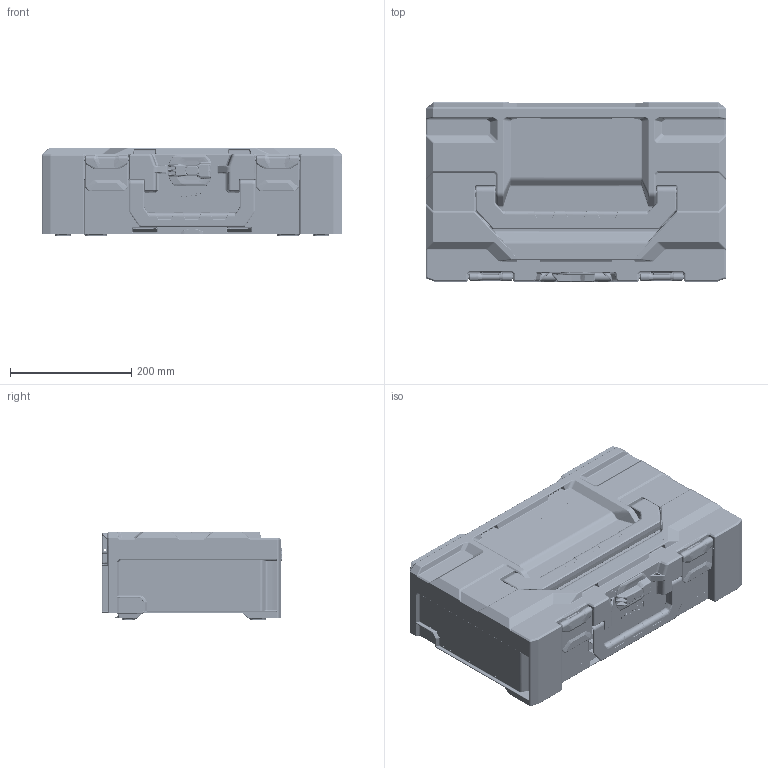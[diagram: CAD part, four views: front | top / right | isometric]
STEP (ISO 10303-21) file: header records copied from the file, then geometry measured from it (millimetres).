
FILE_DESCRIPTION(/* description */ (''),/* implementation_level */ '2;1');
FILE_NAME(/* name */ 'metaBOX_145_L_Neutral.stp',/* time_stamp */ '2020-06-16T16:32:39+02:00',/* author */ (''),/* organization */ (''),/* preprocessor_version */ 'ST-DEVELOPER v16.7',/* originating_system */ 'SIEMENS PLM Software NX 12.0',/* authorisation */ '');
FILE_SCHEMA (('AUTOMOTIVE_DESIGN { 1 0 10303 214 3 1 1 1 }'));
Products named in the file (1): BU740C6CC2yd5s
Bounding box: 496 x 296.4 x 145 mm (x, y, z)
Volume: 1721285.3 mm3; surface area: 1453875.5 mm2
Topology: 7 solids, 8 shells, 13828 faces, 34085 edges, 19809 vertices
Faces by surface type: bspline 5342, cylinder 4539, plane 3092, sphere 380, cone 263, torus 201, extrusion 11
Full cylindrical faces by diameter (mm): 4 x12
Entity records: 534898 total; most frequent: CARTESIAN_POINT 242434, ORIENTED_EDGE 66796, DIRECTION 54502, EDGE_CURVE 33400, AXIS2_PLACEMENT_3D 21171, VERTEX_POINT 19765, EDGE_LOOP 14118, ADVANCED_FACE 13824
